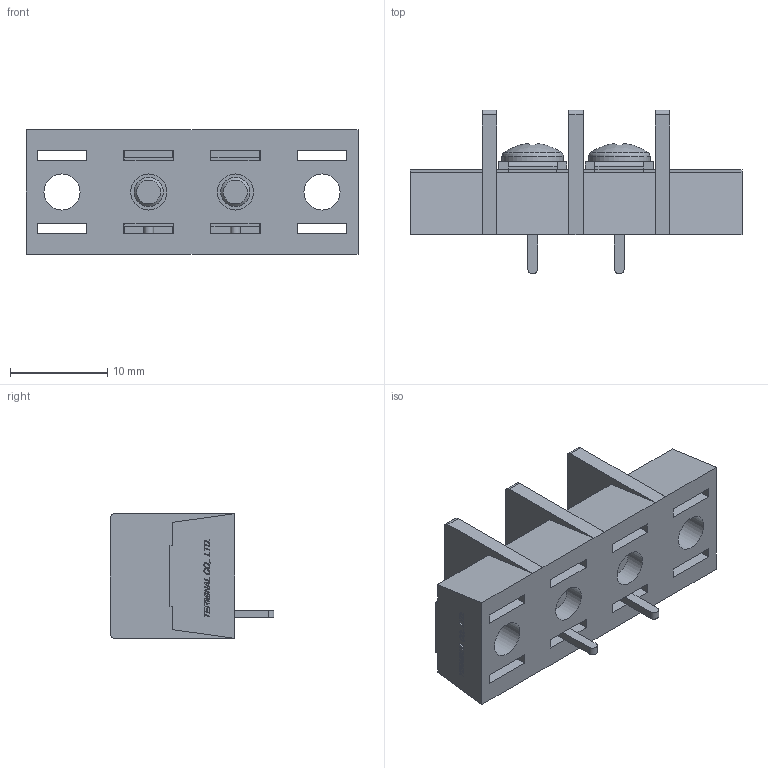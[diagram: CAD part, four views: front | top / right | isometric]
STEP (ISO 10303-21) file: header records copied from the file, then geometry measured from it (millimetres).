
FILE_DESCRIPTION(/* description */ ('Alibre Inc.'),/* implementation_level */ '2;1');
FILE_NAME(/* name */ 'export0',/* time_stamp */ '2015-10-20T08:18:57+09:00',/* author */ (''),/* organization */ (''),/* preprocessor_version */ 'ST-DEVELOPER v14',/* originating_system */ 'Alibre',/* authorisation */ '');
FILE_SCHEMA (('CONFIG_CONTROL_DESIGN'));
Length unit declared in the file: centimetre
Products named in the file (1): ID_1
Bounding box: 34.07 x 16.8 x 12.8 mm (x, y, z)
Volume: 2720.6 mm3; surface area: 3385.1 mm2
Topology: 1 solids, 35 shells, 974 faces, 2536 edges, 1682 vertices
Faces by surface type: plane 724, bspline 208, cylinder 26, cone 10, torus 4, sphere 2
Full cylindrical faces by diameter (mm): 3 x4, 3.7 x4, 4.6 x4, 6.3 x2
Entity records: 28641 total; most frequent: CARTESIAN_POINT 7029, ORIENTED_EDGE 5016, DIRECTION 2922, EDGE_CURVE 2508, VECTOR 1956, LINE 1956, VERTEX_POINT 1674, EDGE_LOOP 1084
